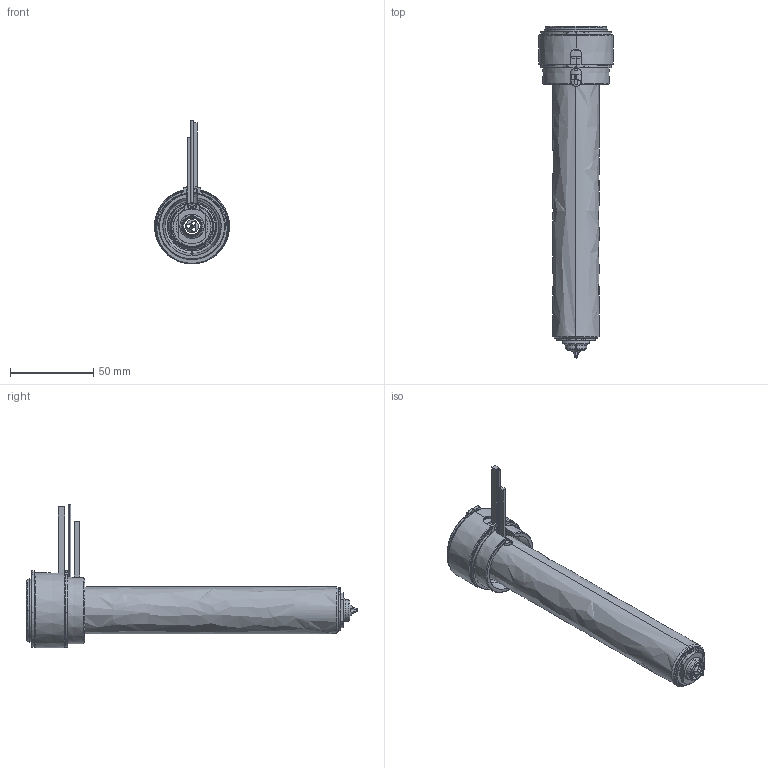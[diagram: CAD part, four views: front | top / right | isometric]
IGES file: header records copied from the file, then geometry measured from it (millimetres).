
Start section: SolidWorks IGES file using analytic representation for surfaces
Global section: file name: C:\Documents and Settings\ws-20\Desktop\TEM\UGEP4504-M-A-1 [Øf-1.31 ØC-10].IGS; native system: SolidWorks 2012; preprocessor: SolidWorks 2012; author: ws-20; date: 120424.090922; units: millimetre
Bounding box: 45 x 199.05 x 86.15 mm (x, y, z)
Surface area: 68268.8 mm2 (no closed solid volume)
Topology: 0 solids, 0 shells, 180 faces, 3321 edges, 3321 vertices
Faces by surface type: revolution 112, bspline 68
